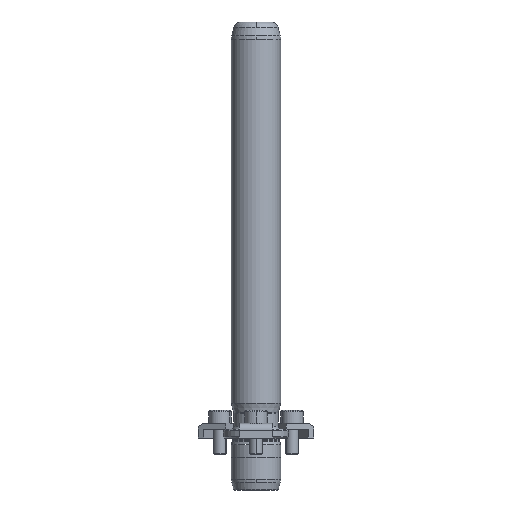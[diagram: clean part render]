
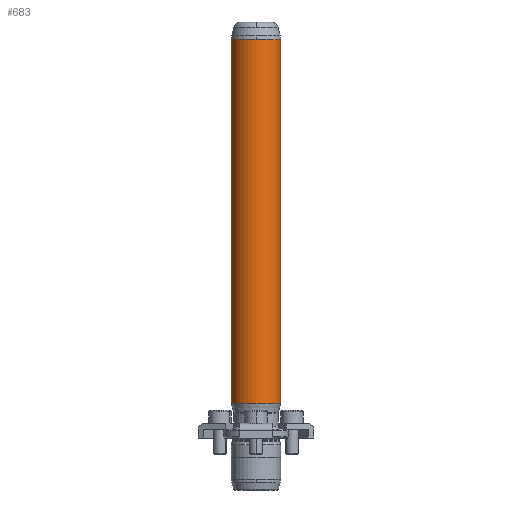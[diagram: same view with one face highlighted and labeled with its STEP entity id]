
A CAD part, front view. The second image highlights one B-rep face of the part: STEP entity #683.
In plain terms, the highlighted cylindrical face has radius 9.5 mm (diameter 19 mm), a partial arc.
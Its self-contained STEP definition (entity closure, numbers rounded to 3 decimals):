
#596=CARTESIAN_POINT('',(0.0,-9.5,153.342));
#597=VERTEX_POINT('',#596);
#624=CARTESIAN_POINT('',(-9.5,0.,153.342));
#625=VERTEX_POINT('',#624);
#633=CARTESIAN_POINT('',(0.0,0.,153.342));
#634=DIRECTION('',(0.0,0.0,1.0));
#635=DIRECTION('',(1.0,0.0,0.0));
#636=AXIS2_PLACEMENT_3D('',#633,#634,#635);
#637=CIRCLE('',#636,9.5);
#638=EDGE_CURVE('',#625,#597,#637,.T.);
#643=CARTESIAN_POINT('',(0.0,0.,83.321));
#644=DIRECTION('',(0.0,0.,1.0));
#645=DIRECTION('',(1.0,0.0,0.0));
#646=AXIS2_PLACEMENT_3D('',#643,#644,#645);
#647=CYLINDRICAL_SURFACE('',#646,9.5);
#648=CARTESIAN_POINT('',(9.5,0.,153.342));
#649=VERTEX_POINT('',#648);
#650=CARTESIAN_POINT('',(9.5,0.,13.3));
#651=VERTEX_POINT('',#650);
#652=CARTESIAN_POINT('',(9.5,0.,153.342));
#653=DIRECTION('',(0.0,0.0,-1.0));
#654=VECTOR('',#653,140.042);
#655=LINE('',#652,#654);
#656=EDGE_CURVE('',#649,#651,#655,.T.);
#657=ORIENTED_EDGE('',*,*,#656,.F.);
#658=CARTESIAN_POINT('',(0.0,0.,153.342));
#659=DIRECTION('',(0.0,0.0,1.0));
#660=DIRECTION('',(1.0,0.0,0.0));
#661=AXIS2_PLACEMENT_3D('',#658,#659,#660);
#662=CIRCLE('',#661,9.5);
#663=EDGE_CURVE('',#597,#649,#662,.T.);
#664=ORIENTED_EDGE('',*,*,#663,.F.);
#665=ORIENTED_EDGE('',*,*,#638,.F.);
#666=CARTESIAN_POINT('',(-9.5,0.,13.3));
#667=VERTEX_POINT('',#666);
#668=CARTESIAN_POINT('',(-9.5,0.,153.342));
#669=DIRECTION('',(0.0,0.0,-1.0));
#670=VECTOR('',#669,140.042);
#671=LINE('',#668,#670);
#672=EDGE_CURVE('',#625,#667,#671,.T.);
#673=ORIENTED_EDGE('',*,*,#672,.T.);
#674=CARTESIAN_POINT('',(0.0,0.,13.3));
#675=DIRECTION('',(0.0,0.0,1.0));
#676=DIRECTION('',(1.0,0.0,0.0));
#677=AXIS2_PLACEMENT_3D('',#674,#675,#676);
#678=CIRCLE('',#677,9.5);
#679=EDGE_CURVE('',#667,#651,#678,.T.);
#680=ORIENTED_EDGE('',*,*,#679,.T.);
#681=EDGE_LOOP('',(#657,#664,#665,#673,#680));
#682=FACE_OUTER_BOUND('',#681,.T.);
#683=ADVANCED_FACE('',(#682),#647,.T.);
